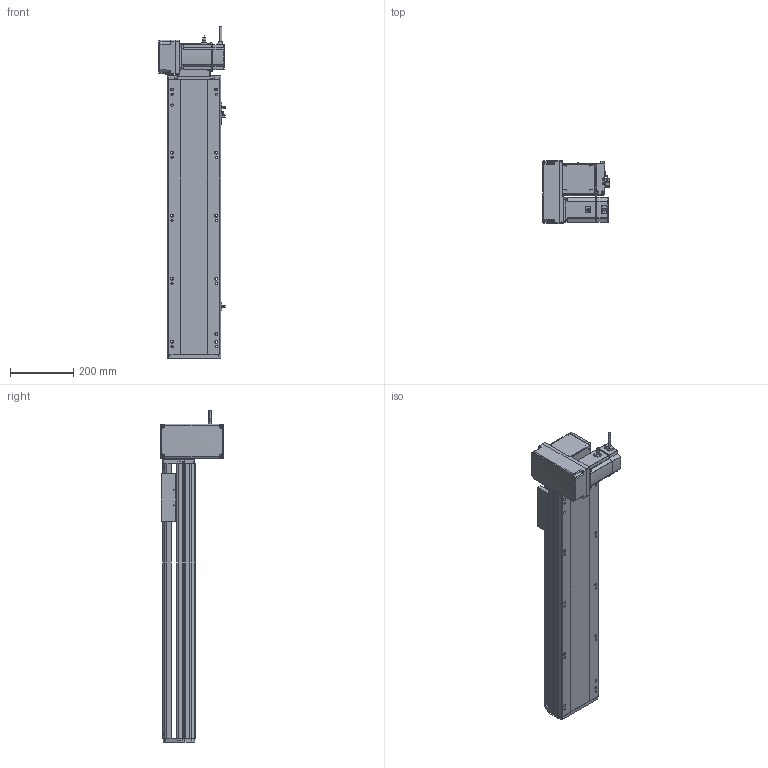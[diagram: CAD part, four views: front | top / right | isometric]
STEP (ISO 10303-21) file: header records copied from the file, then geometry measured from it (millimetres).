
FILE_DESCRIPTION (( 'STEP AP214' ), '1' );
FILE_NAME ('RTB17S-XX-600-LM-M75-C4.STEP', '2025-12-12T00:35:54', ( '' ), ( '' ), 'SwSTEP 2.0', 'SolidWorks 2018', '' );
FILE_SCHEMA (( 'AUTOMOTIVE_DESIGN' ));
Length unit declared in the file: millimetre
Products named in the file (15): RTB17S-L-007奻裔^RTB17S-XX-XX-LM-M75-C4; RTB22S-GY-017P^RTB17S-LM-々湍釱蚾饜-750W_RTB17S-XX-XX-LM-M75-C4; RTB17S-L-001-耜醱啣^RTB17S-XX-XX-LM-M75-C4; RTB22S-GY-008-M75--萇儂啣^RTB17S-LM-々湍釱蚾饜-750W_RTB17S-XX-XX-LM-M75-C4; RTB22S-GY-005P^RTB17S-LM-々湍釱蚾饜-750W_RTB17S-XX-XX-LM-M75-C4; RTH13-BL-012覜茼え俋离^RTB17S-賑釱_RTB17S-XX-XX-LM-M75-C4; RTB17S-L-004-賑釱^RTB17S-賑釱_RTB17S-XX-XX-LM-M75-C4; RTB17S-LM-々湍釱蚾饜-750W^RTB17S-XX-XX-LM-M75-C4; EE672^RTB17S-XX-XX-LM-M75-C4; RTB17S-L-014-T20-P75--々湍釱^RTB17S-LM-々湍釱蚾饜-750W_RTB17S-XX-XX-LM-M75-C4; RTB17-R-011菁釱^RTB17S-XX-XX-LM-M75-C4; RTB17S-XX-600-LM-M75-C4; 750W萇儂^RTB17S-XX-XX-LM-M75-C4; RTB17S-賑釱^RTB17S-XX-XX-LM-M75-C4; RTB22S-GY-018P^RTB17S-LM-々湍釱蚾饜-750W_RTB17S-XX-XX-LM-M75-C4
Assembly tree (17 placements, depth 3):
  RTB17S-XX-600-LM-M75-C4
    RTB17-R-011菁釱^RTB17S-XX-XX-LM-M75-C4
    EE672^RTB17S-XX-XX-LM-M75-C4  x3
    RTB17S-L-001-耜醱啣^RTB17S-XX-XX-LM-M75-C4
    RTB17S-賑釱^RTB17S-XX-XX-LM-M75-C4
      RTB17S-L-004-賑釱^RTB17S-賑釱_RTB17S-XX-XX-LM-M75-C4
      RTH13-BL-012覜茼え俋离^RTB17S-賑釱_RTB17S-XX-XX-LM-M75-C4
    RTB17S-L-007奻裔^RTB17S-XX-XX-LM-M75-C4
    750W萇儂^RTB17S-XX-XX-LM-M75-C4
    RTB17S-LM-々湍釱蚾饜-750W^RTB17S-XX-XX-LM-M75-C4
      RTB17S-L-014-T20-P75--々湍釱^RTB17S-LM-々湍釱蚾饜-750W_RTB17S-XX-XX-LM-M75-C4
      RTB22S-GY-005P^RTB17S-LM-々湍釱蚾饜-750W_RTB17S-XX-XX-LM-M75-C4
      RTB22S-GY-017P^RTB17S-LM-々湍釱蚾饜-750W_RTB17S-XX-XX-LM-M75-C4  x2
      RTB22S-GY-008-M75--萇儂啣^RTB17S-LM-々湍釱蚾饜-750W_RTB17S-XX-XX-LM-M75-C4
      RTB22S-GY-018P^RTB17S-LM-々湍釱蚾饜-750W_RTB17S-XX-XX-LM-M75-C4
Bounding box: 210.4 x 200 x 1052.2 mm (x, y, z)
Volume: 9703296.7 mm3; surface area: 1578688.1 mm2
Topology: 17 solids, 17 shells, 2057 faces, 5674 edges, 3662 vertices
Faces by surface type: plane 966, cylinder 675, bspline 294, cone 110, sphere 8, torus 4
Entity records: 56566 total; most frequent: CARTESIAN_POINT 16538, ORIENTED_EDGE 8192, DIRECTION 7682, EDGE_CURVE 4096, AXIS2_PLACEMENT_3D 2682, VERTEX_POINT 2666, LINE 2318, VECTOR 2318
